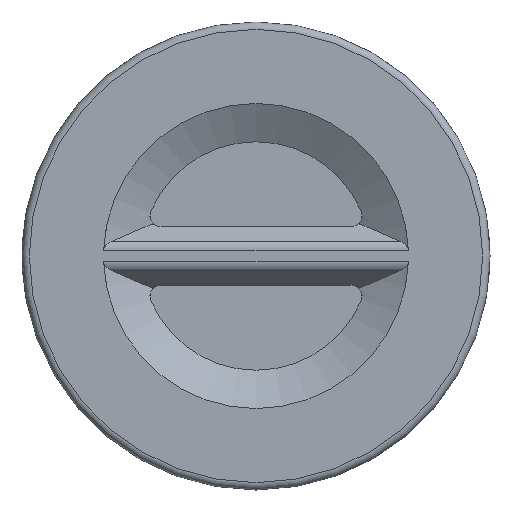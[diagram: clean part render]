
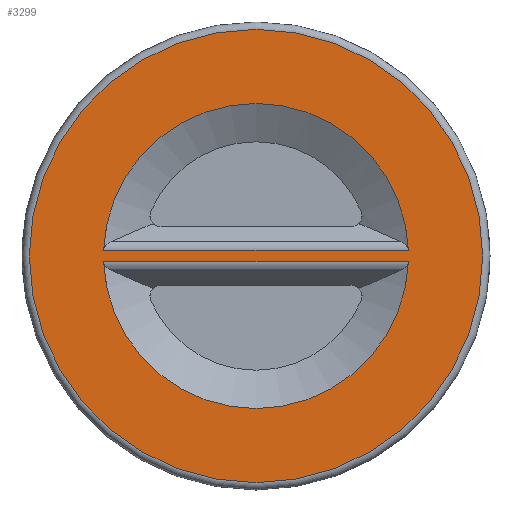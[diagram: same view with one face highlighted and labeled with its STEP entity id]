
A CAD part, front view. The second image highlights one B-rep face of the part: STEP entity #3299.
In plain terms, the highlighted planar face has unit normal (0, -1, 0).
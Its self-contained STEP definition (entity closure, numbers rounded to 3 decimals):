
#23=PLANE('',#3630);
#196=FACE_BOUND('',#644,.T.);
#197=FACE_BOUND('',#645,.T.);
#232=CIRCLE('',#3519,61.5);
#251=CIRCLE('',#3545,41.392);
#305=CIRCLE('',#3629,41.392);
#424=FACE_OUTER_BOUND('',#643,.T.);
#643=EDGE_LOOP('',(#2521));
#644=EDGE_LOOP('',(#2522,#2523));
#645=EDGE_LOOP('',(#2524,#2525));
#899=LINE('',#6334,#1140);
#900=LINE('',#6335,#1141);
#1140=VECTOR('',#4199,1000.);
#1141=VECTOR('',#4200,1000.);
#1435=VERTEX_POINT('',#5270);
#1471=VERTEX_POINT('',#5516);
#1472=VERTEX_POINT('',#5527);
#1612=VERTEX_POINT('',#6289);
#1613=VERTEX_POINT('',#6300);
#1776=EDGE_CURVE('',#1435,#1435,#232,.T.);
#1819=EDGE_CURVE('',#1471,#1472,#251,.T.);
#1973=EDGE_CURVE('',#1612,#1613,#305,.T.);
#1978=EDGE_CURVE('',#1471,#1472,#899,.T.);
#1979=EDGE_CURVE('',#1613,#1612,#900,.T.);
#2521=ORIENTED_EDGE('',*,*,#1776,.T.);
#2522=ORIENTED_EDGE('',*,*,#1978,.T.);
#2523=ORIENTED_EDGE('',*,*,#1819,.F.);
#2524=ORIENTED_EDGE('',*,*,#1973,.F.);
#2525=ORIENTED_EDGE('',*,*,#1979,.F.);
#3299=ADVANCED_FACE('',(#424,#196,#197),#23,.T.);
#3519=AXIS2_PLACEMENT_3D('',#5271,#3909,#3910);
#3545=AXIS2_PLACEMENT_3D('',#5528,#3974,#3975);
#3629=AXIS2_PLACEMENT_3D('',#6301,#4195,#4196);
#3630=AXIS2_PLACEMENT_3D('',#6333,#4197,#4198);
#3909=DIRECTION('center_axis',(0.,-1.,0.));
#3910=DIRECTION('ref_axis',(0.,0.,-1.));
#3974=DIRECTION('center_axis',(0.,-1.,0.));
#3975=DIRECTION('ref_axis',(0.,0.,-1.));
#4195=DIRECTION('center_axis',(0.,-1.,0.));
#4196=DIRECTION('ref_axis',(0.,0.,-1.));
#4197=DIRECTION('center_axis',(0.,-1.,0.));
#4198=DIRECTION('ref_axis',(0.,0.,-1.));
#4199=DIRECTION('',(1.,0.,0.));
#4200=DIRECTION('',(1.,0.,0.));
#5270=CARTESIAN_POINT('',(0.,0.,61.5));
#5271=CARTESIAN_POINT('Origin',(0.,0.,
0.));
#5516=CARTESIAN_POINT('',(-41.362,0.,-1.586));
#5527=CARTESIAN_POINT('',(41.362,0.,-1.586));
#5528=CARTESIAN_POINT('Origin',(0.,0.,
0.));
#6289=CARTESIAN_POINT('',(41.362,0.,1.586));
#6300=CARTESIAN_POINT('',(-41.362,0.,1.586));
#6301=CARTESIAN_POINT('Origin',(0.,0.,
0.));
#6333=CARTESIAN_POINT('Origin',(0.,0.,0.));
#6334=CARTESIAN_POINT('',(-41.362,0.,-1.586));
#6335=CARTESIAN_POINT('',(-41.362,0.,1.586));
